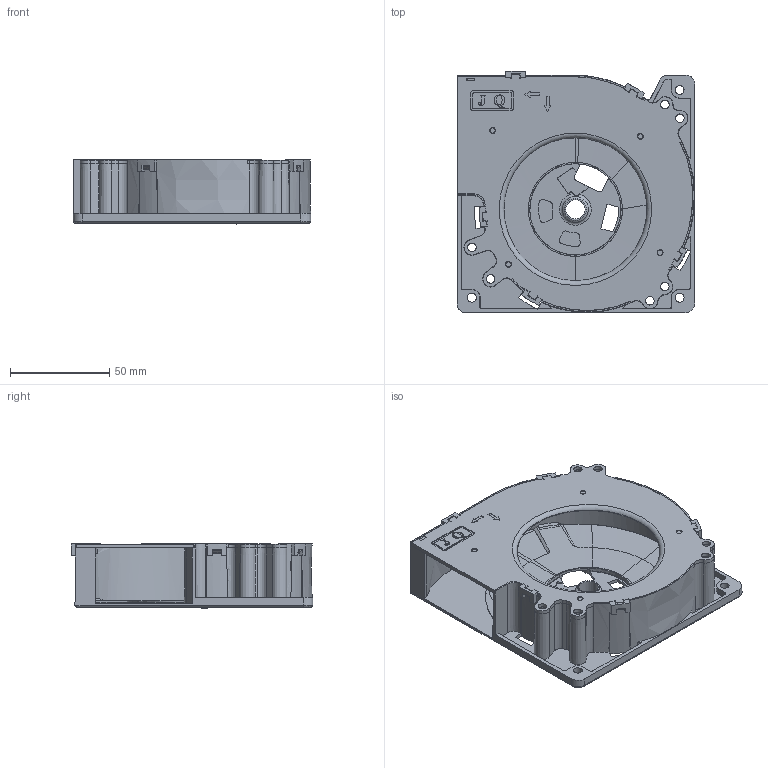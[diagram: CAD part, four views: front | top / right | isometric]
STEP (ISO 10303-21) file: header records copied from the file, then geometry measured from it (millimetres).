
FILE_DESCRIPTION(/* description */ (''),/* implementation_level */ '2;1');
FILE_NAME(/* name */ '12032-4上下盖.stp',/* time_stamp */ '2023-01-04T13:47:31+08:00',/* author */ (''),/* organization */ (''),/* preprocessor_version */ 'ST-DEVELOPER v16',/* originating_system */ 'SIEMENS PLM Software NX 10.0',/* authorisation */ '');
FILE_SCHEMA (('AUTOMOTIVE_DESIGN { 1 0 10303 214 3 1 1 1 }'));
Length unit declared in the file: millimetre
Products named in the file (1): Admi94A01BEEy5dl
Bounding box: 119.93 x 122.02 x 32.35 mm (x, y, z)
Volume: 73293.6 mm3; surface area: 76769.8 mm2
Topology: 2 solids, 2 shells, 707 faces, 2031 edges, 1351 vertices
Faces by surface type: plane 343, cylinder 141, bspline 83, extrusion 70, cone 61, torus 5, revolution 3, sphere 1
Full cylindrical faces by diameter (mm): 3.5 x2, 4.3 x6, 4.5 x9, 9.7 x1, 11 x1, 13 x1, 47.5 x1
Entity records: 36927 total; most frequent: CARTESIAN_POINT 19528, ORIENTED_EDGE 3966, DIRECTION 2980, EDGE_CURVE 1983, VERTEX_POINT 1340, AXIS2_PLACEMENT_3D 995, VECTOR 987, LINE 917
